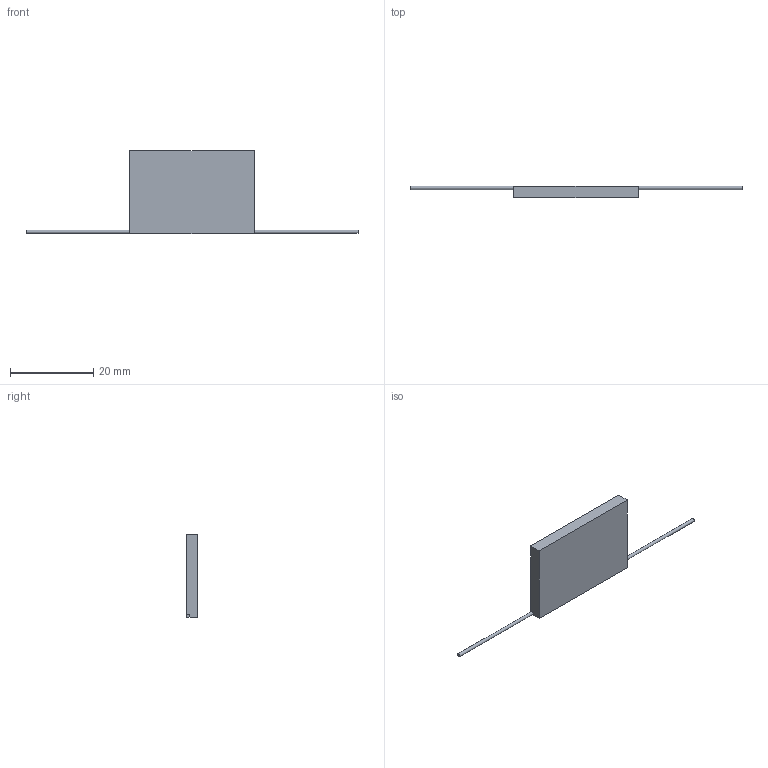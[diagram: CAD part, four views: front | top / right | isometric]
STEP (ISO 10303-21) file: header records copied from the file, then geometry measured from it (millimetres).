
FILE_DESCRIPTION(('STEP AP203'), '1');
FILE_NAME('R1-35-3-2', '', ('UNSPECIFIED'), ('UNSPECIFIED'), 'ASCON STEP Converter 1.6', 'ASCON Math Kernel', '');
FILE_SCHEMA(('CONFIG_CONTROL_DESIGN'));
Length unit declared in the file: millimetre
Bounding box: 80 x 2.8 x 20 mm (x, y, z)
Volume: 1705.1 mm3; surface area: 1605.7 mm2
Topology: 1 solids, 1 shells, 12 faces, 24 edges, 14 vertices
Faces by surface type: plane 10, cylinder 2
Full cylindrical faces by diameter (mm): 0.8 x2
Entity records: 436 total; most frequent: DIRECTION 54, CARTESIAN_POINT 49, ORIENTED_EDGE 44, EDGE_CURVE 22, AXIS2_PLACEMENT_3D 19, LINE 16, VECTOR 16, EDGE_LOOP 14
